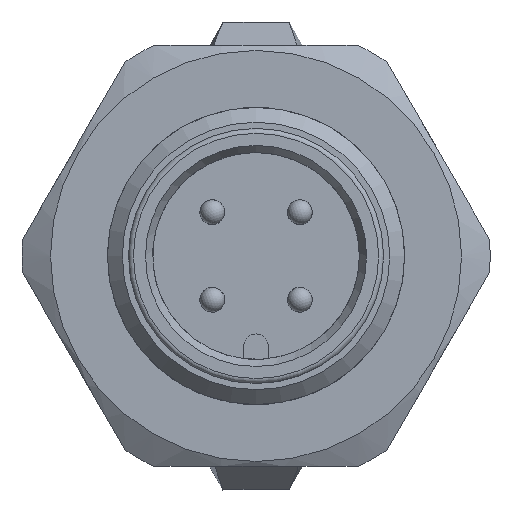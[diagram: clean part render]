
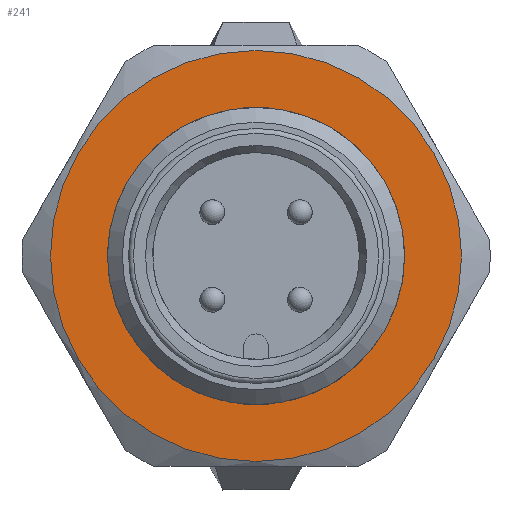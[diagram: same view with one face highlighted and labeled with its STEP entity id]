
A CAD part, left-side view. The second image highlights one B-rep face of the part: STEP entity #241.
In plain terms, the highlighted planar face has unit normal (-1, 0, 0) as drawn and (0, 1, 0) by its records, which use the part's own axes.
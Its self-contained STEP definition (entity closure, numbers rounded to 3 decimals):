
#241 = ADVANCED_FACE( '', ( #419, #420 ), #421, .T. );
#419 = FACE_BOUND( '', #606, .T. );
#420 = FACE_OUTER_BOUND( '', #607, .T. );
#421 = PLANE( '', #608 );
#606 = EDGE_LOOP( '', ( #1059 ) );
#607 = EDGE_LOOP( '', ( #1060 ) );
#608 = AXIS2_PLACEMENT_3D( '', #1061, #1062, #1063 );
#1059 = ORIENTED_EDGE( '', *, *, #1202, .T. );
#1060 = ORIENTED_EDGE( '', *, *, #1176, .F. );
#1061 = CARTESIAN_POINT( '', ( 0., 2., 0. ) );
#1062 = DIRECTION( '', ( 0., 1., 0. ) );
#1063 = DIRECTION( '', ( 0., 0., 1. ) );
#1176 = EDGE_CURVE( '', #1372, #1372, #1373, .T. );
#1202 = EDGE_CURVE( '', #1412, #1412, #1413, .F. );
#1372 = VERTEX_POINT( '', #1652 );
#1373 = CIRCLE( '', #1653, 8.3 );
#1412 = VERTEX_POINT( '', #1792 );
#1413 = CIRCLE( '', #1793, 5.959 );
#1652 = CARTESIAN_POINT( '', ( 0., 2., -8.3 ) );
#1653 = AXIS2_PLACEMENT_3D( '', #2002, #2003, #2004 );
#1792 = CARTESIAN_POINT( '', ( 0., 2., 5.959 ) );
#1793 = AXIS2_PLACEMENT_3D( '', #2038, #2039, #2040 );
#2002 = CARTESIAN_POINT( '', ( 0., 2., 0. ) );
#2003 = DIRECTION( '', ( 0., -1., 0. ) );
#2004 = DIRECTION( '', ( 0., 0., -1. ) );
#2038 = CARTESIAN_POINT( '', ( 0., 2., 0. ) );
#2039 = DIRECTION( '', ( 0., 1., 0. ) );
#2040 = DIRECTION( '', ( 0., 0., 1. ) );
